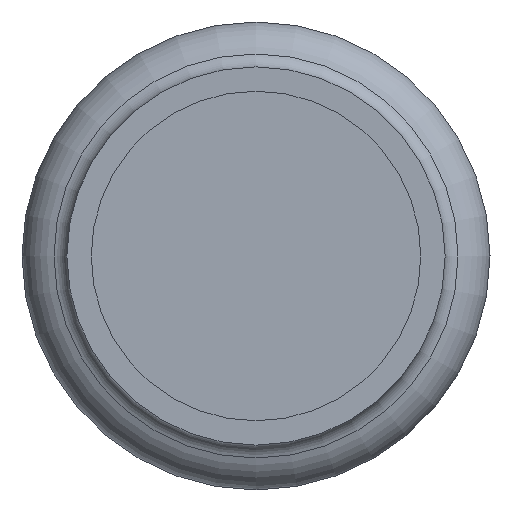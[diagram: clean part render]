
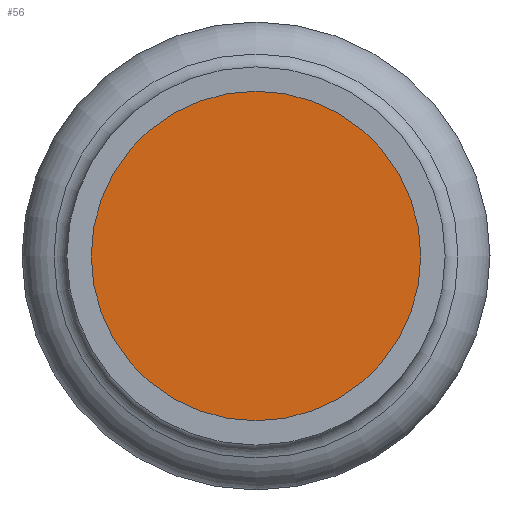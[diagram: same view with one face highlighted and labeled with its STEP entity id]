
A CAD part, front view. The second image highlights one B-rep face of the part: STEP entity #56.
In plain terms, the highlighted planar face has unit normal (0, -1, 0).
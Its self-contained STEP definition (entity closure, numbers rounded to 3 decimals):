
#56=ADVANCED_FACE('',(#97),#99,.T.);
#97=FACE_BOUND('',#98,.T.);
#98=EDGE_LOOP('',(#244));
#99=PLANE('',#100);
#100=AXIS2_PLACEMENT_3D('',#101,#102,#103);
#101=CARTESIAN_POINT('',(0.,-24.104,0.));
#102=DIRECTION('',(0.,-1.,0.));
#103=DIRECTION('',(0.,0.,-1.));
#244=ORIENTED_EDGE('',*,*,#277,.T.);
#277=EDGE_CURVE('',#297,#297,#298,.F.);
#297=VERTEX_POINT('',#339);
#298=CIRCLE('',#340,9.15);
#339=CARTESIAN_POINT('',(0.,-24.104,9.15));
#340=AXIS2_PLACEMENT_3D('',#341,#342,#343);
#341=CARTESIAN_POINT('',(0.,-24.104,0.));
#342=DIRECTION('',(0.,1.,0.));
#343=DIRECTION('',(0.,0.,1.));
